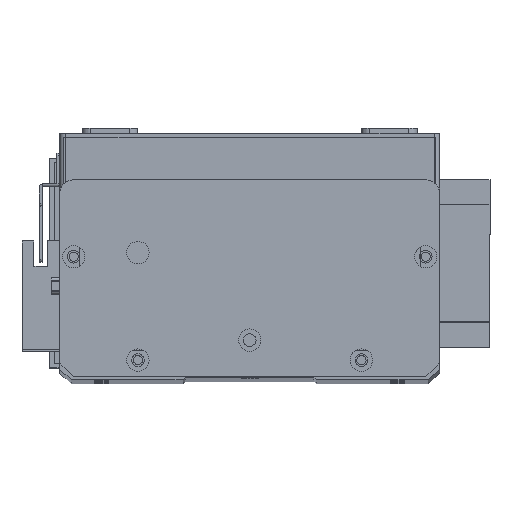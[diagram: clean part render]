
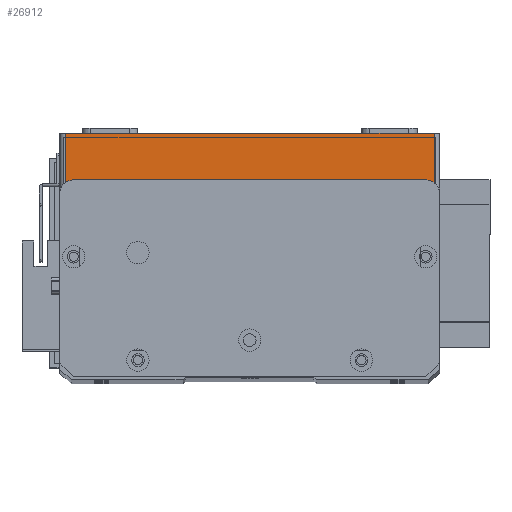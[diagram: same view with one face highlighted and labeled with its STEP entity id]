
A CAD part, top view. The second image highlights one B-rep face of the part: STEP entity #26912.
In plain terms, the highlighted planar face has unit normal (0, 0, 1) as drawn and (0, -1, 0) by its records, which use the part's own axes.
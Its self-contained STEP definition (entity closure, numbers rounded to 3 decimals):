
#1254 = VERTEX_POINT ( 'NONE', #12463 ) ;
#2415 = LINE ( 'NONE', #15988, #6984 ) ;
#3602 = ORIENTED_EDGE ( 'NONE', *, *, #4759, .T. ) ;
#3742 = ORIENTED_EDGE ( 'NONE', *, *, #7424, .T. ) ;
#3917 = ORIENTED_EDGE ( 'NONE', *, *, #9269, .F. ) ;
#4146 = DIRECTION ( 'NONE',  ( 0., 1., 0. ) ) ;
#4567 = CARTESIAN_POINT ( 'NONE',  ( 134., 0., 0. ) ) ;
#4759 = EDGE_CURVE ( 'NONE', #5775, #19443, #20137, .T. ) ;
#5375 = DIRECTION ( 'NONE',  ( 1., 0., 0. ) ) ;
#5775 = VERTEX_POINT ( 'NONE', #14598 ) ;
#6119 = DIRECTION ( 'NONE',  ( 0., 0., 1. ) ) ;
#6307 = CARTESIAN_POINT ( 'NONE',  ( 0., 0., 19.5 ) ) ;
#6984 = VECTOR ( 'NONE', #18236, 1000. ) ;
#7424 = EDGE_CURVE ( 'NONE', #19443, #18023, #2415, .T. ) ;
#7726 = ORIENTED_EDGE ( 'NONE', *, *, #28632, .T. ) ;
#8281 = VECTOR ( 'NONE', #19913, 1000. ) ;
#9269 = EDGE_CURVE ( 'NONE', #5775, #1254, #19480, .T. ) ;
#12021 = AXIS2_PLACEMENT_3D ( 'NONE', #6307, #4146, #19789 ) ;
#12463 = CARTESIAN_POINT ( 'NONE',  ( 134., 0., 19.5 ) ) ;
#12480 = FACE_OUTER_BOUND ( 'NONE', #20628, .T. ) ;
#12774 = CARTESIAN_POINT ( 'NONE',  ( 134., 0., 19.5 ) ) ;
#13525 = VECTOR ( 'NONE', #5375, 1000. ) ;
#14598 = CARTESIAN_POINT ( 'NONE',  ( 2., 0., 19.5 ) ) ;
#15163 = VECTOR ( 'NONE', #6119, 1000. ) ;
#15988 = CARTESIAN_POINT ( 'NONE',  ( 0., 0., 0. ) ) ;
#18023 = VERTEX_POINT ( 'NONE', #4567 ) ;
#18236 = DIRECTION ( 'NONE',  ( 1., 0., 0. ) ) ;
#19443 = VERTEX_POINT ( 'NONE', #27474 ) ;
#19480 = LINE ( 'NONE', #23376, #13525 ) ;
#19789 = DIRECTION ( 'NONE',  ( 0., 0., 1. ) ) ;
#19913 = DIRECTION ( 'NONE',  ( 0., 0., -1. ) ) ;
#20137 = LINE ( 'NONE', #27434, #8281 ) ;
#20628 = EDGE_LOOP ( 'NONE', ( #3917, #3602, #3742, #7726 ) ) ;
#23376 = CARTESIAN_POINT ( 'NONE',  ( 0., 0., 19.5 ) ) ;
#26450 = PLANE ( 'NONE',  #12021 ) ;
#26912 = ADVANCED_FACE ( 'NONE', ( #12480 ), #26450, .F. ) ;
#27434 = CARTESIAN_POINT ( 'NONE',  ( 2., 0., 19.5 ) ) ;
#27474 = CARTESIAN_POINT ( 'NONE',  ( 2., 0., 0. ) ) ;
#27786 = LINE ( 'NONE', #12774, #15163 ) ;
#28632 = EDGE_CURVE ( 'NONE', #18023, #1254, #27786, .T. ) ;
